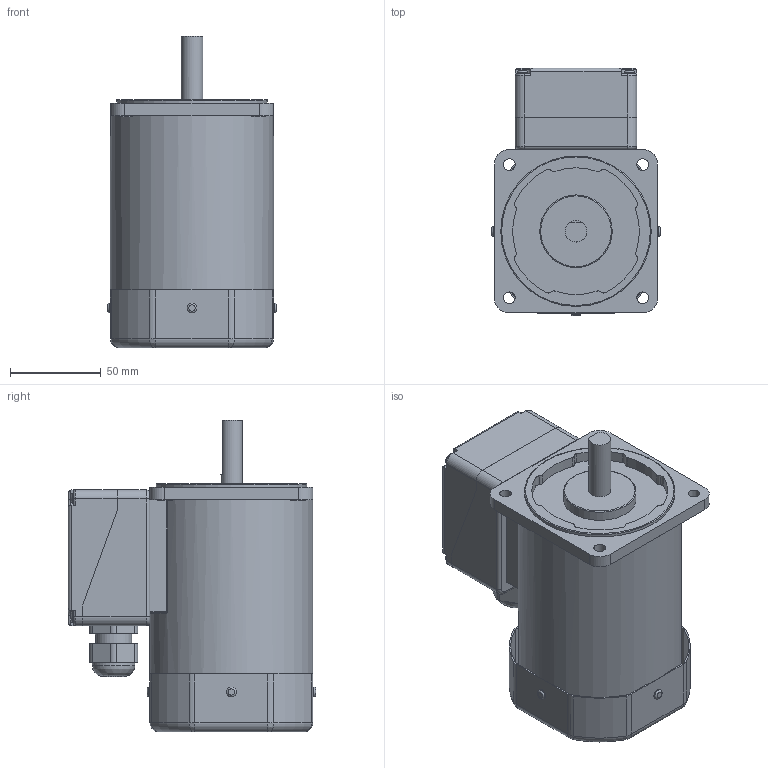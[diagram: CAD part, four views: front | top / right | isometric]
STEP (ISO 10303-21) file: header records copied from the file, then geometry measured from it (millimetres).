
FILE_DESCRIPTION((''),'2;1');
FILE_NAME('E:\2공장-도면\3D\표준형 3D(민규)\step file\K9IS90Fㅁ-T5.stp','2014-11-13T09:55:49',('AHN'),(''),'Autodesk Inventor 2012','Autodesk Inventor 2012','');
FILE_SCHEMA(('CONFIG_CONTROL_DESIGN'));
Length unit declared in the file: millimetre
Products named in the file (5): K9IS90Fㅁ-T5; BASE(a); COVER(a); K9IS90Fㅁ; 케이블
Assembly tree (4 placements, depth 2):
  K9IS90Fㅁ-T5
    BASE(a)
    COVER(a)
    K9IS90Fㅁ
    케이블
Bounding box: 93 x 136.5 x 172 mm (x, y, z)
Volume: 869255.1 mm3; surface area: 127637.2 mm2
Topology: 4 solids, 10 shells, 697 faces, 1718 edges, 1043 vertices
Faces by surface type: cylinder 315, plane 185, torus 138, bspline 31, sphere 20, cone 8
Full cylindrical faces by diameter (mm): 3.242 x4, 3.5 x4, 4.5 x4, 5.5 x8, 6.5 x4, 8 x4, 12 x1, 20 x1, 21 x1, 23.5 x1, 40 x1, 83 x1, 90 x1
Entity records: 22126 total; most frequent: CARTESIAN_POINT 5510, DIRECTION 3710, ORIENTED_EDGE 3266, EDGE_CURVE 1633, AXIS2_PLACEMENT_3D 1503, VERTEX_POINT 1024, CIRCLE 820, EDGE_LOOP 817
